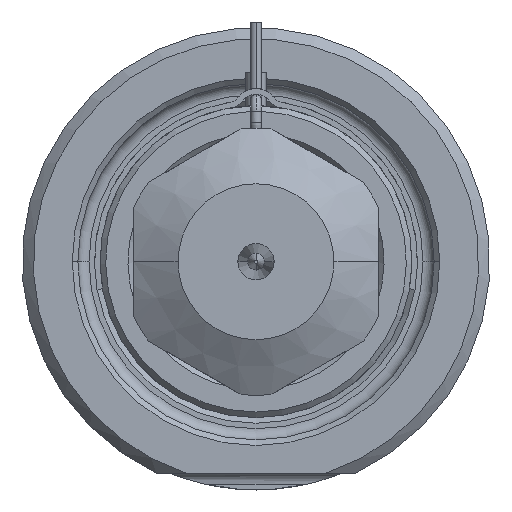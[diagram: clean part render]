
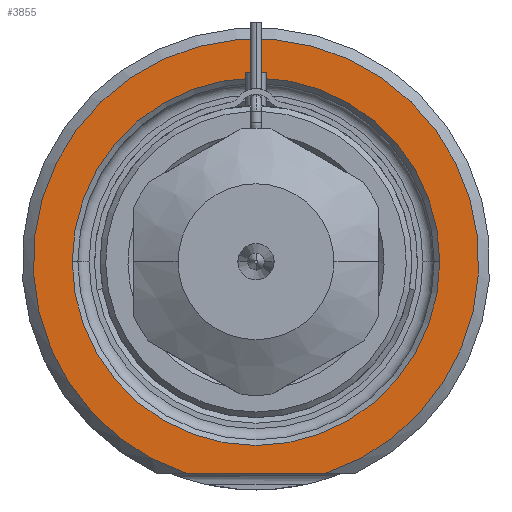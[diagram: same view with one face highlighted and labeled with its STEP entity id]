
A CAD part, front view. The second image highlights one B-rep face of the part: STEP entity #3855.
In plain terms, the highlighted planar face has unit normal (0, -1, 0).
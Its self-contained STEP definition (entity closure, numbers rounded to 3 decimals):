
#1=DIRECTION('',(1.,0.,0.));
#2=VECTOR('',#1,12.49);
#3=CARTESIAN_POINT('',(-6.245,0.,-19.));
#4=LINE('',#3,#2);
#5=CARTESIAN_POINT('',(0.,0.,0.));
#6=DIRECTION('',(0.,1.,0.));
#7=DIRECTION('',(-1.,0.,0.));
#8=AXIS2_PLACEMENT_3D('',#5,#6,#7);
#10=CARTESIAN_POINT('',(0.,0.,0.));
#11=DIRECTION('',(0.,1.,0.));
#12=DIRECTION('',(1.,0.,0.));
#13=AXIS2_PLACEMENT_3D('',#10,#11,#12);
#119=CARTESIAN_POINT('',(0.,0.,0.));
#120=DIRECTION('',(0.,-1.,0.));
#121=DIRECTION('',(0.312,0.,-0.95));
#122=AXIS2_PLACEMENT_3D('',#119,#120,#121);
#3227=CARTESIAN_POINT('',(-16.5,0.,0.));
#3228=CARTESIAN_POINT('',(16.5,0.,0.));
#3229=VERTEX_POINT('',#3227);
#3230=VERTEX_POINT('',#3228);
#3281=CARTESIAN_POINT('',(-6.245,0.,-19.));
#3282=CARTESIAN_POINT('',(6.245,0.,-19.));
#3283=VERTEX_POINT('',#3281);
#3284=VERTEX_POINT('',#3282);
#3838=CARTESIAN_POINT('',(0.,0.,0.));
#3839=DIRECTION('',(0.,-1.,0.));
#3840=DIRECTION('',(1.,0.,0.));
#3841=AXIS2_PLACEMENT_3D('',#3838,#3839,#3840);
#3842=PLANE('',#3841);
#3844=ORIENTED_EDGE('',*,*,#3843,.F.);
#3846=ORIENTED_EDGE('',*,*,#3845,.F.);
#3847=EDGE_LOOP('',(#3844,#3846));
#3848=FACE_OUTER_BOUND('',#3847,.F.);
#3850=ORIENTED_EDGE('',*,*,#3849,.F.);
#3852=ORIENTED_EDGE('',*,*,#3851,.F.);
#3853=EDGE_LOOP('',(#3850,#3852));
#3854=FACE_BOUND('',#3853,.F.);
#3855=ADVANCED_FACE('',(#3848,#3854),#3842,.T.);
#9=CIRCLE('',#8,16.5);
#14=CIRCLE('',#13,16.5);
#123=CIRCLE('',#122,20.);
#3843=EDGE_CURVE('',#3283,#3284,#4,.T.);
#3845=EDGE_CURVE('',#3284,#3283,#123,.T.);
#3849=EDGE_CURVE('',#3229,#3230,#9,.T.);
#3851=EDGE_CURVE('',#3230,#3229,#14,.T.);
